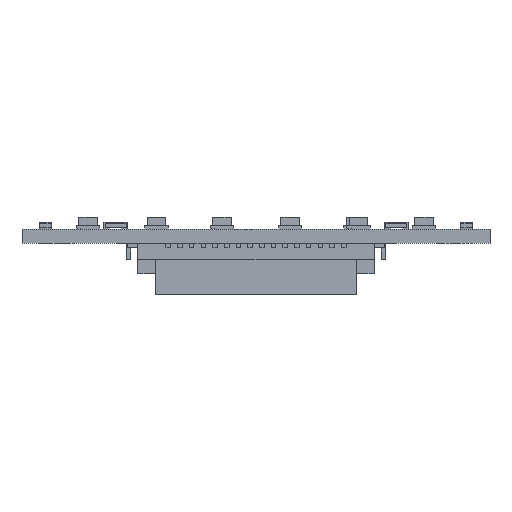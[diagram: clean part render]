
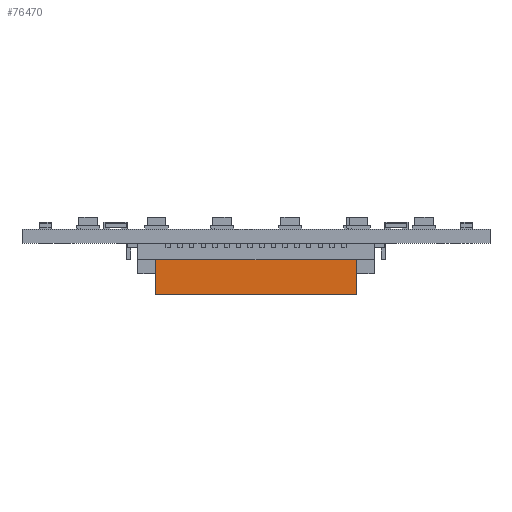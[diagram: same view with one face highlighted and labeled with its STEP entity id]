
A CAD part, front view. The second image highlights one B-rep face of the part: STEP entity #76470.
In plain terms, the highlighted planar face has unit normal (0, -1, 0).
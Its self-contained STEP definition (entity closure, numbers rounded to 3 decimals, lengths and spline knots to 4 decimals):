
#66969 = PLANE('',#66970);
#66970 = AXIS2_PLACEMENT_3D('',#66971,#66972,#66973);
#66971 = CARTESIAN_POINT('',(18.5,14.3,-0.7));
#66972 = DIRECTION('',(0.,0.,-1.));
#66973 = DIRECTION('',(-1.,0.,0.));
#71561 = VERTEX_POINT('',#71562);
#71562 = CARTESIAN_POINT('',(15.7,13.1,-0.7));
#71576 = PLANE('',#71577);
#71577 = AXIS2_PLACEMENT_3D('',#71578,#71579,#71580);
#71578 = CARTESIAN_POINT('',(15.7,14.85,-2.7));
#71579 = DIRECTION('',(-1.,0.,0.));
#71580 = DIRECTION('',(0.,-1.,-0.));
#71588 = EDGE_CURVE('',#71561,#71589,#71591,.T.);
#71589 = VERTEX_POINT('',#71590);
#71590 = CARTESIAN_POINT('',(24.3,13.1,-0.7));
#71591 = SURFACE_CURVE('',#71592,(#71596,#71603),.PCURVE_S1.);
#71592 = LINE('',#71593,#71594);
#71593 = CARTESIAN_POINT('',(15.7,13.1,-0.7));
#71594 = VECTOR('',#71595,1.);
#71595 = DIRECTION('',(1.,0.,0.));
#71596 = PCURVE('',#66969,#71597);
#71597 = DEFINITIONAL_REPRESENTATION('',(#71598),#71602);
#71598 = LINE('',#71599,#71600);
#71599 = CARTESIAN_POINT('',(2.8,-1.2));
#71600 = VECTOR('',#71601,1.);
#71601 = DIRECTION('',(-1.,0.));
#71602 = ( GEOMETRIC_REPRESENTATION_CONTEXT(2) 
PARAMETRIC_REPRESENTATION_CONTEXT() REPRESENTATION_CONTEXT('2D SPACE',''
  ) );
#71603 = PCURVE('',#71604,#71609);
#71604 = PLANE('',#71605);
#71605 = AXIS2_PLACEMENT_3D('',#71606,#71607,#71608);
#71606 = CARTESIAN_POINT('',(21.3,13.1,-2.7));
#71607 = DIRECTION('',(0.,-1.,0.));
#71608 = DIRECTION('',(1.,0.,0.));
#71609 = DEFINITIONAL_REPRESENTATION('',(#71610),#71614);
#71610 = LINE('',#71611,#71612);
#71611 = CARTESIAN_POINT('',(-5.6,2.));
#71612 = VECTOR('',#71613,1.);
#71613 = DIRECTION('',(1.,0.));
#71614 = ( GEOMETRIC_REPRESENTATION_CONTEXT(2) 
PARAMETRIC_REPRESENTATION_CONTEXT() REPRESENTATION_CONTEXT('2D SPACE',''
  ) );
#71632 = PLANE('',#71633);
#71633 = AXIS2_PLACEMENT_3D('',#71634,#71635,#71636);
#71634 = CARTESIAN_POINT('',(24.3,13.75,-2.7));
#71635 = DIRECTION('',(1.,0.,0.));
#71636 = DIRECTION('',(-0.,1.,0.));
#73386 = PLANE('',#73387);
#73387 = AXIS2_PLACEMENT_3D('',#73388,#73389,#73390);
#73388 = CARTESIAN_POINT('',(18.35,12.8,-2.2));
#73389 = DIRECTION('',(0.,0.,-1.));
#73390 = DIRECTION('',(-1.,0.,0.));
#76426 = VERTEX_POINT('',#76427);
#76427 = CARTESIAN_POINT('',(15.7,13.1,-2.2));
#76448 = EDGE_CURVE('',#76426,#71561,#76449,.T.);
#76449 = SURFACE_CURVE('',#76450,(#76454,#76461),.PCURVE_S1.);
#76450 = LINE('',#76451,#76452);
#76451 = CARTESIAN_POINT('',(15.7,13.1,-2.2));
#76452 = VECTOR('',#76453,1.);
#76453 = DIRECTION('',(0.,0.,1.));
#76454 = PCURVE('',#71576,#76455);
#76455 = DEFINITIONAL_REPRESENTATION('',(#76456),#76460);
#76456 = LINE('',#76457,#76458);
#76457 = CARTESIAN_POINT('',(1.75,0.5));
#76458 = VECTOR('',#76459,1.);
#76459 = DIRECTION('',(0.,1.));
#76460 = ( GEOMETRIC_REPRESENTATION_CONTEXT(2) 
PARAMETRIC_REPRESENTATION_CONTEXT() REPRESENTATION_CONTEXT('2D SPACE',''
  ) );
#76461 = PCURVE('',#71604,#76462);
#76462 = DEFINITIONAL_REPRESENTATION('',(#76463),#76467);
#76463 = LINE('',#76464,#76465);
#76464 = CARTESIAN_POINT('',(-5.6,0.5));
#76465 = VECTOR('',#76466,1.);
#76466 = DIRECTION('',(0.,1.));
#76467 = ( GEOMETRIC_REPRESENTATION_CONTEXT(2) 
PARAMETRIC_REPRESENTATION_CONTEXT() REPRESENTATION_CONTEXT('2D SPACE',''
  ) );
#76470 = ADVANCED_FACE('',(#76471),#71604,.T.);
#76471 = FACE_BOUND('',#76472,.T.);
#76472 = EDGE_LOOP('',(#76473,#76474,#76475,#76498));
#76473 = ORIENTED_EDGE('',*,*,#71588,.F.);
#76474 = ORIENTED_EDGE('',*,*,#76448,.F.);
#76475 = ORIENTED_EDGE('',*,*,#76476,.F.);
#76476 = EDGE_CURVE('',#76477,#76426,#76479,.T.);
#76477 = VERTEX_POINT('',#76478);
#76478 = CARTESIAN_POINT('',(24.3,13.1,-2.2));
#76479 = SURFACE_CURVE('',#76480,(#76484,#76491),.PCURVE_S1.);
#76480 = LINE('',#76481,#76482);
#76481 = CARTESIAN_POINT('',(19.825,13.1,-2.2));
#76482 = VECTOR('',#76483,1.);
#76483 = DIRECTION('',(-1.,0.,0.));
#76484 = PCURVE('',#71604,#76485);
#76485 = DEFINITIONAL_REPRESENTATION('',(#76486),#76490);
#76486 = LINE('',#76487,#76488);
#76487 = CARTESIAN_POINT('',(-1.475,0.5));
#76488 = VECTOR('',#76489,1.);
#76489 = DIRECTION('',(-1.,0.));
#76490 = ( GEOMETRIC_REPRESENTATION_CONTEXT(2) 
PARAMETRIC_REPRESENTATION_CONTEXT() REPRESENTATION_CONTEXT('2D SPACE',''
  ) );
#76491 = PCURVE('',#73386,#76492);
#76492 = DEFINITIONAL_REPRESENTATION('',(#76493),#76497);
#76493 = LINE('',#76494,#76495);
#76494 = CARTESIAN_POINT('',(-1.475,0.3));
#76495 = VECTOR('',#76496,1.);
#76496 = DIRECTION('',(1.,0.));
#76497 = ( GEOMETRIC_REPRESENTATION_CONTEXT(2) 
PARAMETRIC_REPRESENTATION_CONTEXT() REPRESENTATION_CONTEXT('2D SPACE',''
  ) );
#76498 = ORIENTED_EDGE('',*,*,#76499,.F.);
#76499 = EDGE_CURVE('',#71589,#76477,#76500,.T.);
#76500 = SURFACE_CURVE('',#76501,(#76505,#76512),.PCURVE_S1.);
#76501 = LINE('',#76502,#76503);
#76502 = CARTESIAN_POINT('',(24.3,13.1,-0.7));
#76503 = VECTOR('',#76504,1.);
#76504 = DIRECTION('',(0.,0.,-1.));
#76505 = PCURVE('',#71604,#76506);
#76506 = DEFINITIONAL_REPRESENTATION('',(#76507),#76511);
#76507 = LINE('',#76508,#76509);
#76508 = CARTESIAN_POINT('',(3.,2.));
#76509 = VECTOR('',#76510,1.);
#76510 = DIRECTION('',(0.,-1.));
#76511 = ( GEOMETRIC_REPRESENTATION_CONTEXT(2) 
PARAMETRIC_REPRESENTATION_CONTEXT() REPRESENTATION_CONTEXT('2D SPACE',''
  ) );
#76512 = PCURVE('',#71632,#76513);
#76513 = DEFINITIONAL_REPRESENTATION('',(#76514),#76518);
#76514 = LINE('',#76515,#76516);
#76515 = CARTESIAN_POINT('',(-0.65,2.));
#76516 = VECTOR('',#76517,1.);
#76517 = DIRECTION('',(0.,-1.));
#76518 = ( GEOMETRIC_REPRESENTATION_CONTEXT(2) 
PARAMETRIC_REPRESENTATION_CONTEXT() REPRESENTATION_CONTEXT('2D SPACE',''
  ) );
